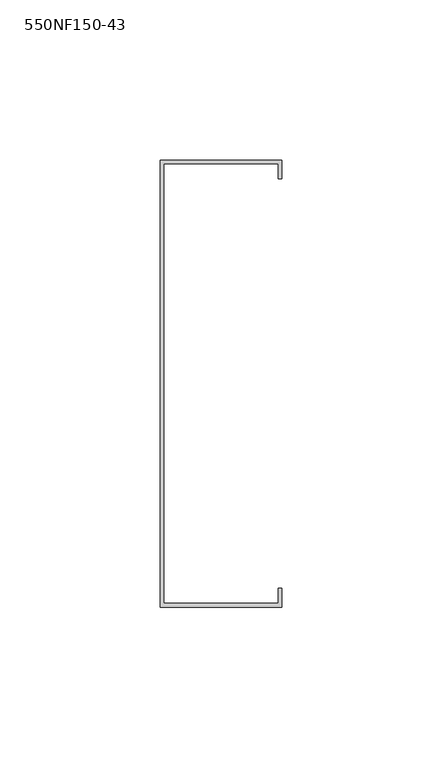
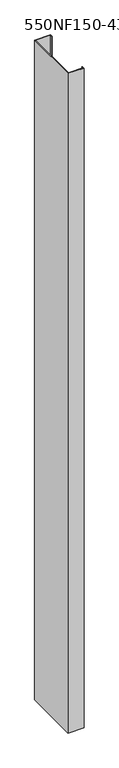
"""IFC4 building model written with IfcOpenShell, lengths in millimetres: column geometry, BIMSF-SSMA-S-Column : 550NF150-43."""

from ifc_helpers import new_model, si_unit, frame, origin, place, context, project, spatial, polyline, outline, extrude, source, transform, mapped, element, save


def column_550nf150_43_fb281cc0(model_context):
    return source(origin(), model_context, "Body", "SweptSolid", [
        extrude(outline(polyline([(-11.9977877, -80.5871249), (-11.9977877, 59.1128751), (26.1022123, 59.1128751), (26.1022123, 53.1879908), (24.952528, 53.1879908), (24.952528, 57.9631908), (-10.8481035, 57.9631908), (-10.8481035, -79.4374407), (24.952528, -79.4374407), (24.952528, -74.6622407), (26.1022123, -74.6622407), (26.1022123, -80.5871249), (-11.9977877, -80.5871249)])), frame((0.0, 0.0, 5525.3929688), z_axis=(0.0, 0.0, 1.0), x_axis=(1.0, 0.0, 0.0)), (0.0, 0.0, 1.0), 1683.9729992),
    ])


if __name__ == "__main__":
    model = new_model("IFC4")
    model_context = context("Model", 3, world=origin())
    ifc_project = project(units=[si_unit("LENGTHUNIT", "METRE", prefix="MILLI")], contexts=[model_context])
    site = spatial("IfcSite", under=ifc_project)
    building = spatial("IfcBuilding", under=site)
    placement = place(None, origin())
    column_550nf150_43_shape = column_550nf150_43_fb281cc0(model_context)
    element("IfcColumn", 1, ObjectType="BIMSF-SSMA-S-Column : 550NF150-43", at=placement, inside=building, context=model_context, shape_type="MappedRepresentation", body=[
        mapped(column_550nf150_43_shape, transform((0.0, 0.0, 0.0), x_axis=(1.0, 0.0, 0.0), y_axis=(0.0, 1.0, 0.0), z_axis=(0.0, 0.0, 1.0))),
    ])
    save(model, "model.ifc")
